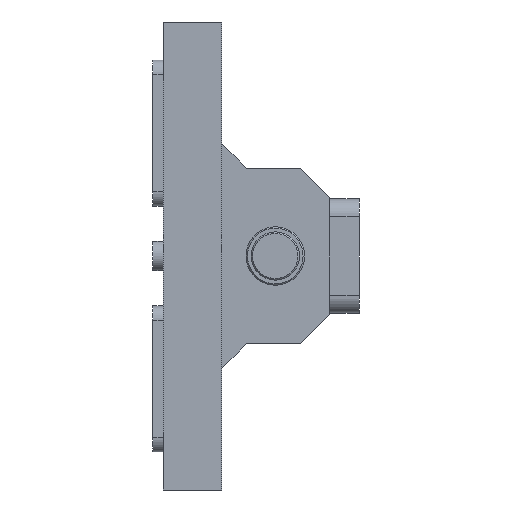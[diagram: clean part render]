
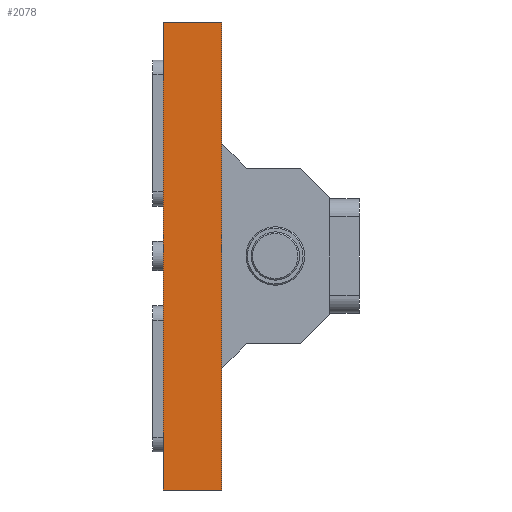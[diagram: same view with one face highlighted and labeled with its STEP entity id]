
A CAD part, left-side view. The second image highlights one B-rep face of the part: STEP entity #2078.
In plain terms, the highlighted planar face has unit normal (-1, 0, 0).
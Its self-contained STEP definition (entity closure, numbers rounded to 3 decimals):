
#101 = FACE_OUTER_BOUND ( 'NONE', #2833, .T. ) ;
#165 = VECTOR ( 'NONE', #1878, 1000. ) ;
#356 = EDGE_CURVE ( 'NONE', #2395, #2115, #2217, .T. ) ;
#358 = CARTESIAN_POINT ( 'NONE',  ( -28.5, 77., -80. ) ) ;
#383 = DIRECTION ( 'NONE',  ( 0., 0., -1. ) ) ;
#511 = CARTESIAN_POINT ( 'NONE',  ( -28.5, 77., 80. ) ) ;
#578 = DIRECTION ( 'NONE',  ( 1., 0., 0. ) ) ;
#616 = EDGE_CURVE ( 'NONE', #2415, #2395, #2223, .T. ) ;
#673 = AXIS2_PLACEMENT_3D ( 'NONE', #1732, #578, #2913 ) ;
#995 = LINE ( 'NONE', #2553, #165 ) ;
#1042 = PLANE ( 'NONE',  #673 ) ;
#1071 = CARTESIAN_POINT ( 'NONE',  ( -28.5, 57., -80. ) ) ;
#1089 = DIRECTION ( 'NONE',  ( 0., -1., 0. ) ) ;
#1166 = VERTEX_POINT ( 'NONE', #2204 ) ;
#1283 = EDGE_CURVE ( 'NONE', #1166, #2115, #995, .T. ) ;
#1295 = CARTESIAN_POINT ( 'NONE',  ( -28.5, 77., -80. ) ) ;
#1307 = VECTOR ( 'NONE', #383, 1000. ) ;
#1392 = ORIENTED_EDGE ( 'NONE', *, *, #1283, .F. ) ;
#1580 = DIRECTION ( 'NONE',  ( 0., -1., 0. ) ) ;
#1732 = CARTESIAN_POINT ( 'NONE',  ( -28.5, 77., 80. ) ) ;
#1798 = VECTOR ( 'NONE', #1089, 1000. ) ;
#1857 = ORIENTED_EDGE ( 'NONE', *, *, #2531, .F. ) ;
#1878 = DIRECTION ( 'NONE',  ( 0., 0., -1. ) ) ;
#2078 = ADVANCED_FACE ( 'NONE', ( #101 ), #1042, .F. ) ;
#2115 = VERTEX_POINT ( 'NONE', #1071 ) ;
#2204 = CARTESIAN_POINT ( 'NONE',  ( -28.5, 57., 80. ) ) ;
#2217 = LINE ( 'NONE', #1295, #1798 ) ;
#2223 = LINE ( 'NONE', #2903, #1307 ) ;
#2395 = VERTEX_POINT ( 'NONE', #358 ) ;
#2415 = VERTEX_POINT ( 'NONE', #511 ) ;
#2531 = EDGE_CURVE ( 'NONE', #2415, #1166, #2925, .T. ) ;
#2550 = ORIENTED_EDGE ( 'NONE', *, *, #356, .T. ) ;
#2553 = CARTESIAN_POINT ( 'NONE',  ( -28.5, 57., 80. ) ) ;
#2675 = CARTESIAN_POINT ( 'NONE',  ( -28.5, 77., 80. ) ) ;
#2833 = EDGE_LOOP ( 'NONE', ( #2889, #2550, #1392, #1857 ) ) ;
#2889 = ORIENTED_EDGE ( 'NONE', *, *, #616, .T. ) ;
#2902 = VECTOR ( 'NONE', #1580, 1000. ) ;
#2903 = CARTESIAN_POINT ( 'NONE',  ( -28.5, 77., 80. ) ) ;
#2913 = DIRECTION ( 'NONE',  ( 0., 1., 0. ) ) ;
#2925 = LINE ( 'NONE', #2675, #2902 ) ;
